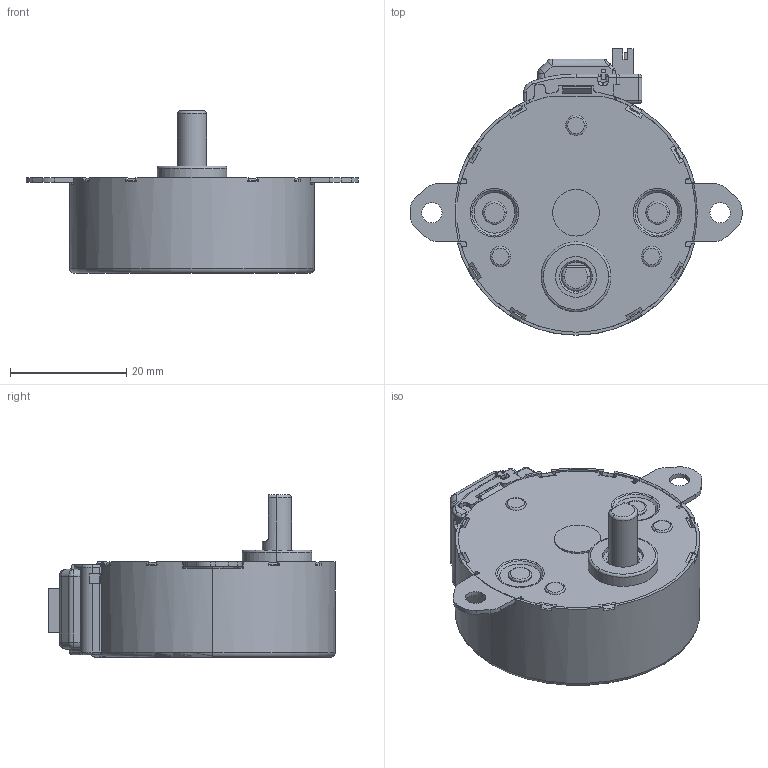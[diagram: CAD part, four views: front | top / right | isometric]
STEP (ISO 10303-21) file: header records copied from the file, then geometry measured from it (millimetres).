
FILE_DESCRIPTION (( 'STEP AP203' ), '1' );
FILE_NAME ('KFG42S_3D.STEP', '2026-01-23T02:34:37', ( '' ), ( '' ), 'SwSTEP 2.0', 'SolidWorks 2022', '' );
FILE_SCHEMA (( 'CONFIG_CONTROL_DESIGN' ));
Length unit declared in the file: millimetre
Products named in the file (1): KFG42S_3D
Bounding box: 57 x 49.17 x 27.9 mm (x, y, z)
Volume: 24103.2 mm3; surface area: 6190.6 mm2
Topology: 1 solids, 1 shells, 468 faces, 1242 edges, 780 vertices
Faces by surface type: plane 218, cylinder 147, torus 51, cone 34, sphere 14, bspline 4
Entity records: 14734 total; most frequent: CARTESIAN_POINT 2881, DIRECTION 2556, ORIENTED_EDGE 2460, EDGE_CURVE 1230, AXIS2_PLACEMENT_3D 933, VERTEX_POINT 780, VECTOR 690, LINE 690
